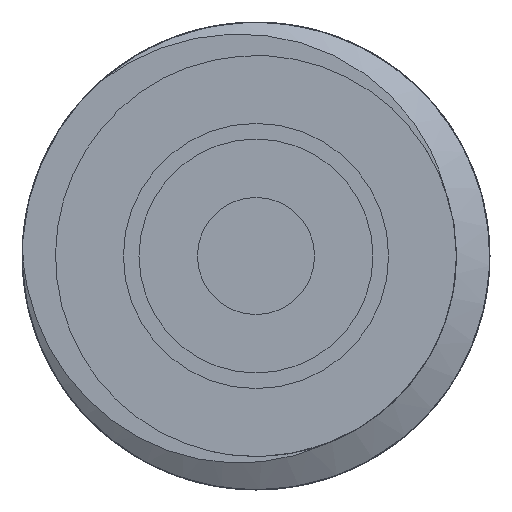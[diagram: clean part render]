
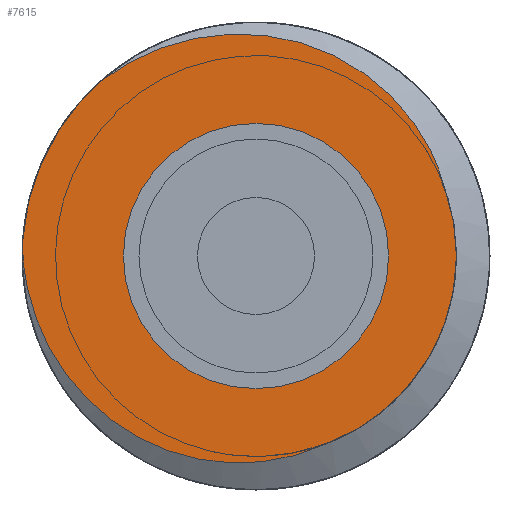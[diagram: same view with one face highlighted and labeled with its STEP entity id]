
A CAD part, front view. The second image highlights one B-rep face of the part: STEP entity #7615.
In plain terms, the highlighted planar face has unit normal (0, -1, 0).
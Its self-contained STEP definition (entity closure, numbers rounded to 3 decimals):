
#35 = CARTESIAN_POINT ( 'NONE',  ( 0.999, 35., 2.58 ) ) ;
#75 = CARTESIAN_POINT ( 'NONE',  ( -2.996, 35., 0.145 ) ) ;
#83 = CARTESIAN_POINT ( 'NONE',  ( 2.269, 35., 1.31 ) ) ;
#466 = CARTESIAN_POINT ( 'NONE',  ( 0.875, 35., -2.416 ) ) ;
#484 = EDGE_CURVE ( 'NONE', #5003, #2522, #12084, .T. ) ;
#724 = AXIS2_PLACEMENT_3D ( 'NONE', #5139, #12926, #7385 ) ;
#797 = PLANE ( 'NONE',  #7422 ) ;
#1134 = CARTESIAN_POINT ( 'NONE',  ( 1.897, 35., 1.886 ) ) ;
#1183 = CARTESIAN_POINT ( 'NONE',  ( -1.007, 35., 2.745 ) ) ;
#1280 = CARTESIAN_POINT ( 'NONE',  ( 2.357, 35., 1.098 ) ) ;
#1772 = CARTESIAN_POINT ( 'NONE',  ( 2.416, 35., 0.875 ) ) ;
#2201 = CARTESIAN_POINT ( 'NONE',  ( 2.037, 35., 1.707 ) ) ;
#2336 = ORIENTED_EDGE ( 'NONE', *, *, #4478, .F. ) ;
#2389 = FACE_OUTER_BOUND ( 'NONE', #10718, .T. ) ;
#2522 = VERTEX_POINT ( 'NONE', #8977 ) ;
#2938 = DIRECTION ( 'NONE',  ( 0., 0., 1. ) ) ;
#3027 = DIRECTION ( 'NONE',  ( 0., 1., 0. ) ) ;
#3277 = CIRCLE ( 'NONE', #8265, 1.7 ) ;
#3374 = CARTESIAN_POINT ( 'NONE',  ( 2.416, 35., 0.875 ) ) ;
#3415 = CARTESIAN_POINT ( 'NONE',  ( -2.528, 35., 1.627 ) ) ;
#3564 = CARTESIAN_POINT ( 'NONE',  ( -2.991, 35., -0.085 ) ) ;
#3667 = CARTESIAN_POINT ( 'NONE',  ( -1.348, 35., -2.417 ) ) ;
#4254 = B_SPLINE_CURVE_WITH_KNOTS ( 'NONE', 3,
 ( #75, #6832, #7908, #7813, #4641, #10045, #3415, #5802, #13489, #5703 ),
 .UNSPECIFIED., .F., .F.,
 ( 4, 2, 2, 2, 4 ),
 ( 0., 0.001, 0.001, 0.002, 0.002 ),
 .UNSPECIFIED. ) ;
#4478 = EDGE_CURVE ( 'NONE', #2522, #9855, #4254, .T. ) ;
#4550 = B_SPLINE_CURVE_WITH_KNOTS ( 'NONE', 3,
 ( #7822, #7869, #11167, #13499, #1183, #11120, #13355, #5662, #6840, #11266, #35, #6793, #12379, #1134, #2201, #83, #1280, #3374 ),
 .UNSPECIFIED., .F., .F.,
 ( 4, 2, 2, 2, 2, 2, 2, 2, 4 ),
 ( 0., 0.001, 0.001, 0.002, 0.003, 0.003, 0.004, 0.005, 0.005 ),
 .UNSPECIFIED. ) ;
#4641 = CARTESIAN_POINT ( 'NONE',  ( -2.795, 35., 1.105 ) ) ;
#4792 = CARTESIAN_POINT ( 'NONE',  ( -2.411, 35., -1.56 ) ) ;
#4844 = CARTESIAN_POINT ( 'NONE',  ( -2.105, 35., -1.902 ) ) ;
#4895 = CARTESIAN_POINT ( 'NONE',  ( -1.554, 35., -2.312 ) ) ;
#5003 = VERTEX_POINT ( 'NONE', #466 ) ;
#5139 = CARTESIAN_POINT ( 'NONE',  ( 0., 35., 0. ) ) ;
#5185 = CARTESIAN_POINT ( 'NONE',  ( 0., 35., 0. ) ) ;
#5311 = ORIENTED_EDGE ( 'NONE', *, *, #6513, .T. ) ;
#5481 = CARTESIAN_POINT ( 'NONE',  ( 0., 35., 0. ) ) ;
#5662 = CARTESIAN_POINT ( 'NONE',  ( 0.125, 35., 2.835 ) ) ;
#5703 = CARTESIAN_POINT ( 'NONE',  ( -2.016, 35., 2.221 ) ) ;
#5802 = CARTESIAN_POINT ( 'NONE',  ( -2.295, 35., 1.941 ) ) ;
#5903 = CARTESIAN_POINT ( 'NONE',  ( -0.919, 35., -2.571 ) ) ;
#6513 = EDGE_CURVE ( 'NONE', #7437, #7437, #3277, .T. ) ;
#6517 = ORIENTED_EDGE ( 'NONE', *, *, #12398, .T. ) ;
#6793 = CARTESIAN_POINT ( 'NONE',  ( 1.39, 35., 2.349 ) ) ;
#6832 = CARTESIAN_POINT ( 'NONE',  ( -2.987, 35., 0.343 ) ) ;
#6840 = CARTESIAN_POINT ( 'NONE',  ( 0.349, 35., 2.799 ) ) ;
#7038 = CARTESIAN_POINT ( 'NONE',  ( -2.544, 35., -1.371 ) ) ;
#7385 = DIRECTION ( 'NONE',  ( 0., 0., -1. ) ) ;
#7422 = AXIS2_PLACEMENT_3D ( 'NONE', #5185, #3027, #2938 ) ;
#7437 = VERTEX_POINT ( 'NONE', #13651 ) ;
#7615 = ADVANCED_FACE ( 'NONE', ( #11971, #2389 ), #797, .F. ) ;
#7813 = CARTESIAN_POINT ( 'NONE',  ( -2.862, 35., 0.918 ) ) ;
#7822 = CARTESIAN_POINT ( 'NONE',  ( -2.016, 35., 2.221 ) ) ;
#7869 = CARTESIAN_POINT ( 'NONE',  ( -1.835, 35., 2.364 ) ) ;
#7908 = CARTESIAN_POINT ( 'NONE',  ( -2.957, 35., 0.538 ) ) ;
#8111 = CARTESIAN_POINT ( 'NONE',  ( 0.665, 35., -2.514 ) ) ;
#8265 = AXIS2_PLACEMENT_3D ( 'NONE', #5481, #12095, #14385 ) ;
#8977 = CARTESIAN_POINT ( 'NONE',  ( -2.996, 35., 0.145 ) ) ;
#9121 = CARTESIAN_POINT ( 'NONE',  ( -2.96, 35., -0.311 ) ) ;
#9727 = CIRCLE ( 'NONE', #724, 2.57 ) ;
#9855 = VERTEX_POINT ( 'NONE', #9859 ) ;
#9859 = CARTESIAN_POINT ( 'NONE',  ( -2.016, 35., 2.221 ) ) ;
#10045 = CARTESIAN_POINT ( 'NONE',  ( -2.628, 35., 1.46 ) ) ;
#10288 = CARTESIAN_POINT ( 'NONE',  ( -2.996, 35., 0.145 ) ) ;
#10336 = CARTESIAN_POINT ( 'NONE',  ( -0.236, 35., -2.664 ) ) ;
#10373 = ORIENTED_EDGE ( 'NONE', *, *, #13425, .F. ) ;
#10718 = EDGE_LOOP ( 'NONE', ( #6517, #10373, #2336, #13304 ) ) ;
#11120 = CARTESIAN_POINT ( 'NONE',  ( -0.562, 35., 2.834 ) ) ;
#11167 = CARTESIAN_POINT ( 'NONE',  ( -1.641, 35., 2.482 ) ) ;
#11266 = CARTESIAN_POINT ( 'NONE',  ( 0.786, 35., 2.672 ) ) ;
#11459 = CARTESIAN_POINT ( 'NONE',  ( -2.845, 35., -0.753 ) ) ;
#11509 = CARTESIAN_POINT ( 'NONE',  ( 0.875, 35., -2.416 ) ) ;
#11559 = CARTESIAN_POINT ( 'NONE',  ( -0.691, 35., -2.621 ) ) ;
#11971 = FACE_BOUND ( 'NONE', #13326, .T. ) ;
#12083 = VERTEX_POINT ( 'NONE', #1772 ) ;
#12084 = B_SPLINE_CURVE_WITH_KNOTS ( 'NONE', 3,
 ( #11509, #8111, #12624, #12522, #10336, #11559, #5903, #3667, #4895, #13696, #4844, #4792, #7038, #12572, #11459, #9121, #3564, #10288 ),
 .UNSPECIFIED., .F., .F.,
 ( 4, 2, 2, 2, 2, 2, 2, 2, 4 ),
 ( 0., 0.001, 0.001, 0.002, 0.003, 0.003, 0.004, 0.005, 0.005 ),
 .UNSPECIFIED. ) ;
#12095 = DIRECTION ( 'NONE',  ( 0., 1., 0. ) ) ;
#12379 = CARTESIAN_POINT ( 'NONE',  ( 1.574, 35., 2.208 ) ) ;
#12398 = EDGE_CURVE ( 'NONE', #5003, #12083, #9727, .T. ) ;
#12522 = CARTESIAN_POINT ( 'NONE',  ( -0.004, 35., -2.656 ) ) ;
#12572 = CARTESIAN_POINT ( 'NONE',  ( -2.759, 35., -0.969 ) ) ;
#12624 = CARTESIAN_POINT ( 'NONE',  ( 0.448, 35., -2.581 ) ) ;
#12926 = DIRECTION ( 'NONE',  ( 0., -1., 0. ) ) ;
#13304 = ORIENTED_EDGE ( 'NONE', *, *, #484, .F. ) ;
#13326 = EDGE_LOOP ( 'NONE', ( #5311 ) ) ;
#13355 = CARTESIAN_POINT ( 'NONE',  ( -0.333, 35., 2.852 ) ) ;
#13425 = EDGE_CURVE ( 'NONE', #9855, #12083, #4550, .T. ) ;
#13489 = CARTESIAN_POINT ( 'NONE',  ( -2.162, 35., 2.089 ) ) ;
#13499 = CARTESIAN_POINT ( 'NONE',  ( -1.228, 35., 2.673 ) ) ;
#13651 = CARTESIAN_POINT ( 'NONE',  ( 0., 35., 1.7 ) ) ;
#13696 = CARTESIAN_POINT ( 'NONE',  ( -1.934, 35., -2.054 ) ) ;
#14385 = DIRECTION ( 'NONE',  ( 0., 0., 1. ) ) ;
